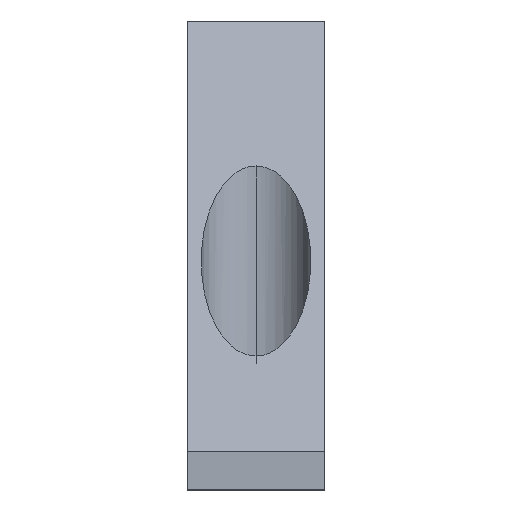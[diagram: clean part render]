
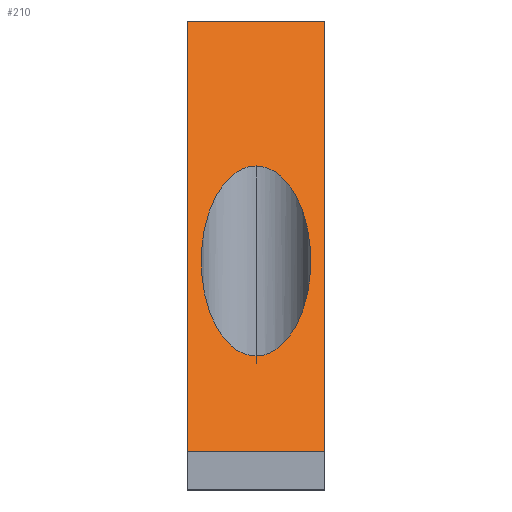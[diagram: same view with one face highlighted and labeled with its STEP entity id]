
A CAD part, left-side view. The second image highlights one B-rep face of the part: STEP entity #210.
In plain terms, the highlighted planar face has unit normal (-0.866, 0, 0.5).
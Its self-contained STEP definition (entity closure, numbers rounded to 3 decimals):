
#2 = CARTESIAN_POINT ( 'NONE',  ( -20., 2.5, 3.359 ) ) ;
#45 = VERTEX_POINT ( 'NONE', #763 ) ;
#46 = VERTEX_POINT ( 'NONE', #209 ) ;
#64 = CARTESIAN_POINT ( 'NONE',  ( -21.939, 2.5, 0. ) ) ;
#65 = EDGE_CURVE ( 'NONE', #343, #46, #548, .T. ) ;
#93 =( BOUNDED_CURVE ( )  B_SPLINE_CURVE ( 3, ( #703, #240, #438, #225 ),
 .UNSPECIFIED., .F., .F. ) 
 B_SPLINE_CURVE_WITH_KNOTS ( ( 4, 4 ),
 ( 0., 3.142 ),
 .UNSPECIFIED. ) 
 CURVE ( )  GEOMETRIC_REPRESENTATION_ITEM ( )  RATIONAL_B_SPLINE_CURVE ( ( 1., 0.333, 0.333, 1. ) ) 
 REPRESENTATION_ITEM ( '' )  );
#98 = EDGE_CURVE ( 'NONE', #705, #189, #93, .T. ) ;
#141 = EDGE_CURVE ( 'NONE', #46, #45, #249, .T. ) ;
#151 = CARTESIAN_POINT ( 'NONE',  ( -14., -4., 13.751 ) ) ;
#189 = VERTEX_POINT ( 'NONE', #1186 ) ;
#199 = DIRECTION ( 'NONE',  ( 0.5, 0., 0.866 ) ) ;
#209 = CARTESIAN_POINT ( 'NONE',  ( -10.97, 2.5, 19. ) ) ;
#210 = ADVANCED_FACE ( 'NONE', ( #1170, #1109 ), #1119, .F. ) ;
#225 = CARTESIAN_POINT ( 'NONE',  ( -14., 0., 13.751 ) ) ;
#240 = CARTESIAN_POINT ( 'NONE',  ( -18., 4., 6.823 ) ) ;
#249 = LINE ( 'NONE', #883, #446 ) ;
#253 = ORIENTED_EDGE ( 'NONE', *, *, #1192, .F. ) ;
#340 = ORIENTED_EDGE ( 'NONE', *, *, #606, .T. ) ;
#343 = VERTEX_POINT ( 'NONE', #2 ) ;
#351 = VECTOR ( 'NONE', #199, 1000. ) ;
#353 = VERTEX_POINT ( 'NONE', #657 ) ;
#355 = EDGE_LOOP ( 'NONE', ( #827, #253, #1018, #1045 ) ) ;
#438 = CARTESIAN_POINT ( 'NONE',  ( -14., 4., 13.751 ) ) ;
#446 = VECTOR ( 'NONE', #694, 1000. ) ;
#455 = AXIS2_PLACEMENT_3D ( 'NONE', #64, #1203, #1107 ) ;
#517 = CARTESIAN_POINT ( 'NONE',  ( -18., 0., 6.823 ) ) ;
#526 = CARTESIAN_POINT ( 'NONE',  ( -18., -4., 6.823 ) ) ;
#548 = LINE ( 'NONE', #783, #351 ) ;
#570 = EDGE_CURVE ( 'NONE', #353, #45, #860, .T. ) ;
#605 = CARTESIAN_POINT ( 'NONE',  ( -14., 0., 13.751 ) ) ;
#606 = EDGE_CURVE ( 'NONE', #189, #705, #1059, .T. ) ;
#632 = CARTESIAN_POINT ( 'NONE',  ( -20., -2.5, 3.359 ) ) ;
#643 = DIRECTION ( 'NONE',  ( 0., 1., 0. ) ) ;
#650 = DIRECTION ( 'NONE',  ( 0.5, 0., 0.866 ) ) ;
#657 = CARTESIAN_POINT ( 'NONE',  ( -20., -2.5, 3.359 ) ) ;
#664 = LINE ( 'NONE', #632, #1200 ) ;
#694 = DIRECTION ( 'NONE',  ( 0., -1., 0. ) ) ;
#703 = CARTESIAN_POINT ( 'NONE',  ( -18., 0., 6.823 ) ) ;
#705 = VERTEX_POINT ( 'NONE', #817 ) ;
#712 = CARTESIAN_POINT ( 'NONE',  ( -21.939, -2.5, 0. ) ) ;
#763 = CARTESIAN_POINT ( 'NONE',  ( -10.97, -2.5, 19. ) ) ;
#783 = CARTESIAN_POINT ( 'NONE',  ( -21.939, 2.5, 0. ) ) ;
#817 = CARTESIAN_POINT ( 'NONE',  ( -18., 0., 6.823 ) ) ;
#827 = ORIENTED_EDGE ( 'NONE', *, *, #65, .F. ) ;
#860 = LINE ( 'NONE', #712, #1185 ) ;
#883 = CARTESIAN_POINT ( 'NONE',  ( -10.97, 2.5, 19. ) ) ;
#1018 = ORIENTED_EDGE ( 'NONE', *, *, #570, .T. ) ;
#1045 = ORIENTED_EDGE ( 'NONE', *, *, #141, .F. ) ;
#1058 = EDGE_LOOP ( 'NONE', ( #1114, #340 ) ) ;
#1059 =( BOUNDED_CURVE ( )  B_SPLINE_CURVE ( 3, ( #605, #151, #526, #517 ),
 .UNSPECIFIED., .F., .F. ) 
 B_SPLINE_CURVE_WITH_KNOTS ( ( 4, 4 ),
 ( 3.142, 6.283 ),
 .UNSPECIFIED. ) 
 CURVE ( )  GEOMETRIC_REPRESENTATION_ITEM ( )  RATIONAL_B_SPLINE_CURVE ( ( 1., 0.333, 0.333, 1. ) ) 
 REPRESENTATION_ITEM ( '' )  );
#1107 = DIRECTION ( 'NONE',  ( -0.5, 0., -0.866 ) ) ;
#1109 = FACE_OUTER_BOUND ( 'NONE', #355, .T. ) ;
#1114 = ORIENTED_EDGE ( 'NONE', *, *, #98, .T. ) ;
#1119 = PLANE ( 'NONE',  #455 ) ;
#1170 = FACE_BOUND ( 'NONE', #1058, .T. ) ;
#1185 = VECTOR ( 'NONE', #650, 1000. ) ;
#1186 = CARTESIAN_POINT ( 'NONE',  ( -14., 0., 13.751 ) ) ;
#1192 = EDGE_CURVE ( 'NONE', #353, #343, #664, .T. ) ;
#1200 = VECTOR ( 'NONE', #643, 1000. ) ;
#1203 = DIRECTION ( 'NONE',  ( 0.866, 0., -0.5 ) ) ;
